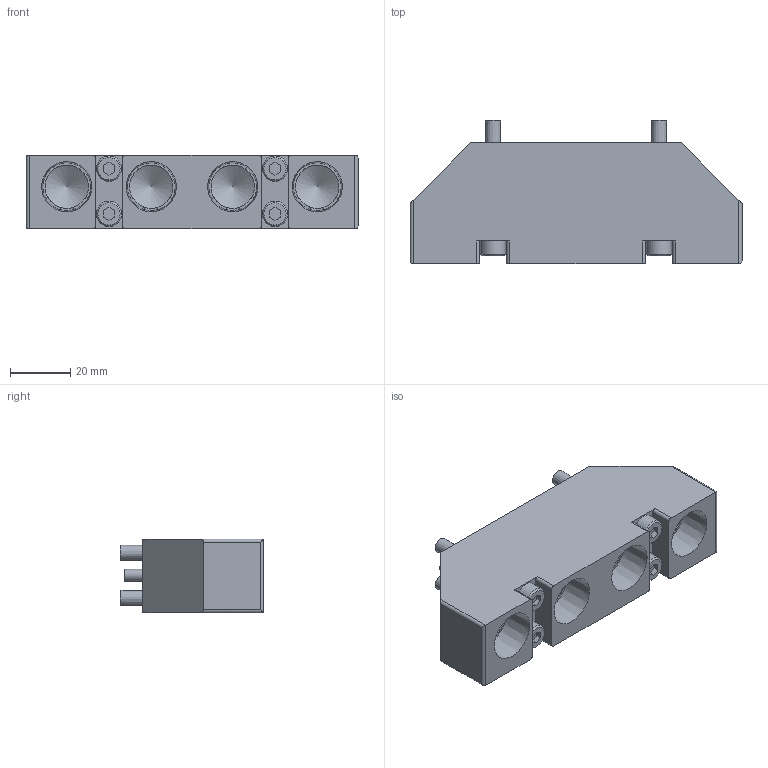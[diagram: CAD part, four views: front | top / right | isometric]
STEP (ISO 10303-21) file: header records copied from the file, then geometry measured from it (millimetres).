
FILE_DESCRIPTION(('STEP AP214'),'1');
FILE_NAME('KHB-45_300RS-EP104_ver1.stp','2026-04-27T07:39:37',(' '),(' '),'Spatial InterOp 3D',' ',' ');
FILE_SCHEMA(('AUTOMOTIVE_DESIGN { 1 0 10303 214 1 1 1 1 }'));
Length unit declared in the file: millimetre
Products named in the file (3): KHB-45~300RS-EP104_ver1; パーツ1
Assembly tree (2 placements, depth 2):
  KHB-45~300RS-EP104_ver1
    パーツ1
    パーツ1
Bounding box: 110 x 47.5 x 24.5 mm (x, y, z)
Volume: 74336 mm3; surface area: 25638.3 mm2
Topology: 2 solids, 3 shells, 123 faces, 298 edges, 195 vertices
Faces by surface type: plane 68, cylinder 39, cone 16
Full cylindrical faces by diameter (mm): 4 x3, 5 x4, 5.5 x4, 8.385 x4, 12 x4, 14.4 x4
Entity records: 4552 total; most frequent: CARTESIAN_POINT 826, DIRECTION 568, ORIENTED_EDGE 476, EDGE_CURVE 238, AXIS2_PLACEMENT_3D 212, EDGE_LOOP 184, VERTEX_POINT 178, FACE_OUTER_BOUND 146
